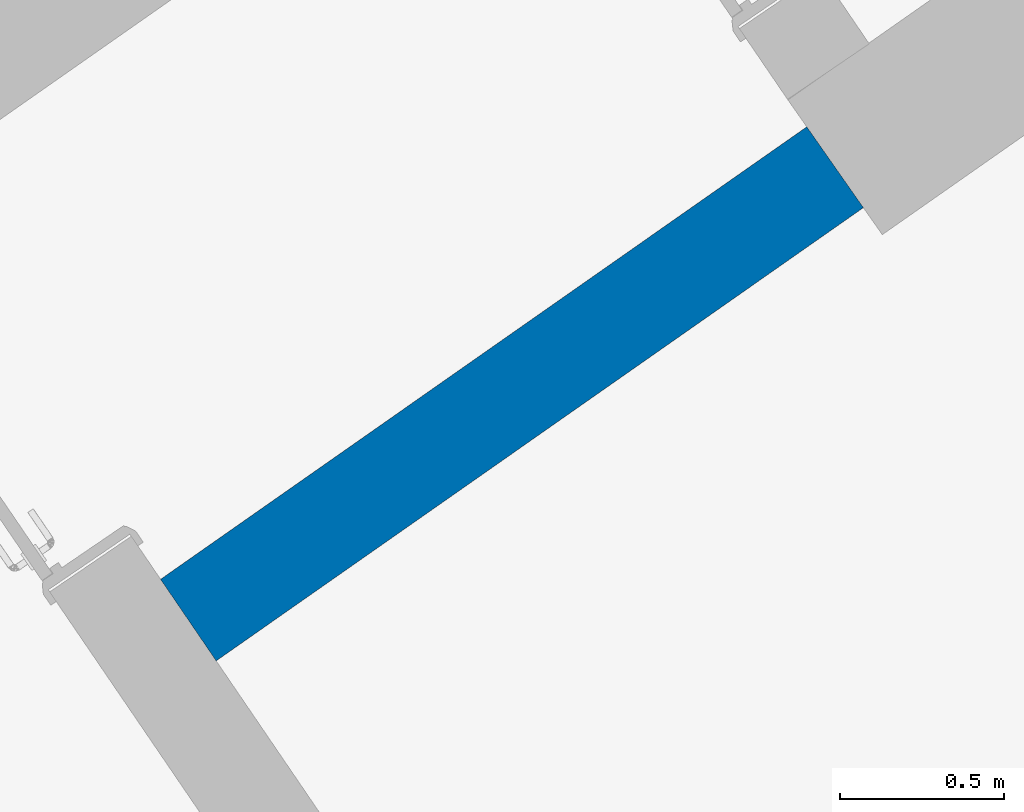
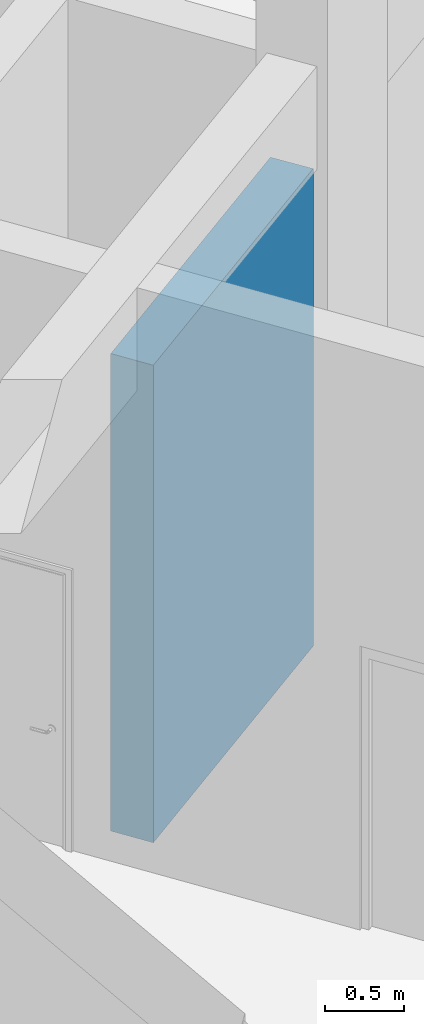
# One storey, part 76 of 157: 1 wall.
"""IFC2X3 building model written with IfcOpenShell, lengths in millimetres."""

from ifc_helpers import new_model, entity, si_unit, converted_unit, derived_unit, direction, frame, origin, place, context, subcontext, project, spatial, polyline, outline, extrude, material, layer, layer_set, layer_usage, type_object, element, save


model = new_model("IFC2X3")

# Units and contexts
model_context = context("Model", 3, precision=0.01, world=origin(), true_north=direction((6.123031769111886e-17, 1.0)))
body_context = subcontext(model_context, "Body", "Model", "MODEL_VIEW")
ifc_project = project(units=[si_unit("LENGTHUNIT", "METRE", prefix="MILLI"), si_unit("AREAUNIT", "SQUARE_METRE"), si_unit("VOLUMEUNIT", "CUBIC_METRE"), converted_unit("PLANEANGLEUNIT", "DEGREE", entity("IfcRatioMeasure", 0.017453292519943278), si_unit("PLANEANGLEUNIT", "RADIAN"), dimensions=[0, 0, 0, 0, 0, 0, 0]), si_unit("MASSUNIT", "GRAM", prefix="KILO"), derived_unit("MASSDENSITYUNIT", [(si_unit("MASSUNIT", "GRAM", prefix="KILO"), 1), (si_unit("LENGTHUNIT", "METRE"), -3)]), derived_unit("MOMENTOFINERTIAUNIT", [(si_unit("LENGTHUNIT", "METRE"), 4)]), si_unit("TIMEUNIT", "SECOND"), si_unit("FREQUENCYUNIT", "HERTZ"), si_unit("THERMODYNAMICTEMPERATUREUNIT", "DEGREE_CELSIUS"), derived_unit("THERMALTRANSMITTANCEUNIT", [(si_unit("MASSUNIT", "GRAM", prefix="KILO"), 1), (si_unit("THERMODYNAMICTEMPERATUREUNIT", "KELVIN"), -1), (si_unit("TIMEUNIT", "SECOND"), -3)]), derived_unit("THERMALCONDUCTANCEUNIT", [(si_unit("MASSUNIT", "GRAM", prefix="KILO"), 1), (si_unit("LENGTHUNIT", "METRE"), 1), (si_unit("THERMODYNAMICTEMPERATUREUNIT", "KELVIN"), -1), (si_unit("TIMEUNIT", "SECOND"), -3)]), derived_unit("VOLUMETRICFLOWRATEUNIT", [(si_unit("LENGTHUNIT", "METRE"), 3), (si_unit("TIMEUNIT", "SECOND"), -1)]), derived_unit("MASSFLOWRATEUNIT", [(si_unit("MASSUNIT", "GRAM", prefix="KILO"), 1), (si_unit("TIMEUNIT", "SECOND"), -1)]), derived_unit("ROTATIONALFREQUENCYUNIT", [(si_unit("TIMEUNIT", "SECOND"), -1)]), si_unit("ELECTRICCURRENTUNIT", "AMPERE"), si_unit("ELECTRICVOLTAGEUNIT", "VOLT"), si_unit("POWERUNIT", "WATT"), converted_unit("FORCEUNIT", "KIP", entity("IfcRatioMeasure", 2.088543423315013e-05), si_unit("FORCEUNIT", "NEWTON"), dimensions=[1, 1, -2, 0, 0, 0, 0]), si_unit("ILLUMINANCEUNIT", "LUX"), si_unit("LUMINOUSFLUXUNIT", "LUMEN"), si_unit("LUMINOUSINTENSITYUNIT", "CANDELA"), derived_unit("USERDEFINED", [(si_unit("MASSUNIT", "GRAM", prefix="KILO"), -1), (si_unit("LENGTHUNIT", "METRE"), -2), (si_unit("TIMEUNIT", "SECOND"), 3), (si_unit("LUMINOUSFLUXUNIT", "LUMEN"), 1)]), derived_unit("USERDEFINED", [(si_unit("MASSUNIT", "GRAM", prefix="KILO"), 1), (si_unit("LENGTHUNIT", "METRE"), 3), (si_unit("TIMEUNIT", "SECOND"), -3), (si_unit("ELECTRICCURRENTUNIT", "AMPERE"), -2)]), derived_unit("USERDEFINED", [(si_unit("LENGTHUNIT", "METRE"), 2), (si_unit("TIMEUNIT", "SECOND"), -2)]), derived_unit("SOUNDPOWERUNIT", [(si_unit("MASSUNIT", "GRAM", prefix="KILO"), 1), (si_unit("LENGTHUNIT", "METRE"), 2), (si_unit("TIMEUNIT", "SECOND"), -3)]), derived_unit("SOUNDPRESSUREUNIT", [(si_unit("MASSUNIT", "GRAM", prefix="KILO"), 1), (si_unit("LENGTHUNIT", "METRE"), -1), (si_unit("TIMEUNIT", "SECOND"), -2)]), derived_unit("LINEARVELOCITYUNIT", [(si_unit("LENGTHUNIT", "METRE"), 1), (si_unit("TIMEUNIT", "SECOND"), -1)]), si_unit("PRESSUREUNIT", "PASCAL"), derived_unit("USERDEFINED", [(si_unit("LENGTHUNIT", "METRE"), -2), (si_unit("MASSUNIT", "GRAM", prefix="KILO"), 1), (si_unit("TIMEUNIT", "SECOND"), -2)]), derived_unit("LINEARFORCEUNIT", [(si_unit("MASSUNIT", "GRAM", prefix="KILO"), 1), (si_unit("LENGTHUNIT", "METRE"), 1), (si_unit("TIMEUNIT", "SECOND"), -2), (si_unit("LENGTHUNIT", "METRE"), -1)]), derived_unit("PLANARFORCEUNIT", [(si_unit("MASSUNIT", "GRAM", prefix="KILO"), 1), (si_unit("LENGTHUNIT", "METRE"), 1), (si_unit("TIMEUNIT", "SECOND"), -2), (si_unit("LENGTHUNIT", "METRE"), -2)]), derived_unit("SPECIFICHEATCAPACITYUNIT", [(si_unit("LENGTHUNIT", "METRE"), 2), (si_unit("TIMEUNIT", "SECOND"), -2), (si_unit("THERMODYNAMICTEMPERATUREUNIT", "KELVIN"), -1)]), derived_unit("VAPORPERMEABILITYUNIT", [(si_unit("TIMEUNIT", "SECOND"), 1), (si_unit("LENGTHUNIT", "METRE"), -1)]), derived_unit("DYNAMICVISCOSITYUNIT", [(si_unit("MASSUNIT", "GRAM", prefix="KILO"), 1), (si_unit("LENGTHUNIT", "METRE"), -1), (si_unit("TIMEUNIT", "SECOND"), -1)]), derived_unit("THERMALEXPANSIONCOEFFICIENTUNIT", [(si_unit("THERMODYNAMICTEMPERATUREUNIT", "KELVIN"), -1)])], contexts=[model_context])

# Site, building, storey
site_placement = place(None, frame((0.0, 0.0, 0.0), z_axis=(0.0, 0.0, 1.0), x_axis=(0.8191520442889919, 0.5735764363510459, 0.0)))
site = spatial("IfcSite", under=ifc_project, at=site_placement, Name="Default", CompositionType="ELEMENT")
building_placement = place(site_placement, origin())
building = spatial("IfcBuilding", under=site, at=building_placement, CompositionType="ELEMENT")
storey_placement = place(building_placement, origin())
storey = spatial("IfcBuildingStorey", under=building, at=storey_placement, Name="1.EG +0.00", CompositionType="ELEMENT", Elevation=-4.331468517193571e-12)

# Wall
ifc_material = material(Name="Analytical Wall Surface_CJC")
ifc_layer = layer(ifc_material, 300.0)
ifc_layer_set = layer_set([ifc_layer], Name="Basic Wall:Wand_Innen_30")
ifc_layer_usage = layer_usage(ifc_layer_set, "AXIS2", "NEGATIVE", 150.0)
wall_type = type_object("IfcWallType", Name="Basic Wall:Wand_Innen_30", PredefinedType="STANDARD", material=ifc_layer_set)
wall_placement = place(storey_placement, frame((-211219.53418967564, 127696.35891435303, 0.0), z_axis=(0.0, 0.0, 1.0), x_axis=(-1.0, 0.0, 0.0)))
element("IfcWallStandardCase", 1, at=wall_placement, inside=storey, type_object=wall_type, material=ifc_layer_usage, Name="Basic Wall:Wand_Innen_30", ObjectType="Basic Wall:Wand_Innen_30", context=body_context, shape_type="SweptSolid", body=[
    extrude(outline(polyline([(2398.333500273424, -150.0), (2402.1526860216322, 150.0), (0.0, 150.0), (0.0, -150.0), (2398.333500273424, -150.0)])), origin(), (0.0, 0.0, 1.0), 3700.0000000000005),
])

save(model, "model.ifc")
